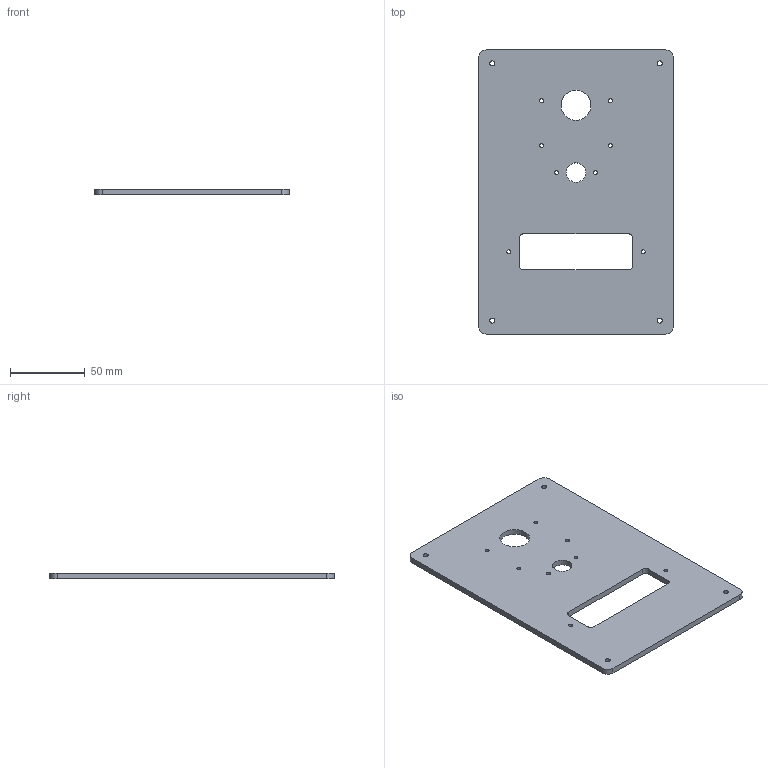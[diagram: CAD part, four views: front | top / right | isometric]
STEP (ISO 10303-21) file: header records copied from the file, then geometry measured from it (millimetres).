
FILE_DESCRIPTION(('Open CASCADE Model'),'2;1');
FILE_NAME('Open CASCADE Shape Model','2026-10-07T15:46:24',('Author'),( 'Open CASCADE'),'Open CASCADE STEP processor 7.9','Open CASCADE 7.9' ,'Unknown');
FILE_SCHEMA(('AUTOMOTIVE_DESIGN { 1 0 10303 214 1 1 1 1 }'));
Length unit declared in the file: millimetre
Products named in the file (1): Open CASCADE STEP translator 7.9 2
Bounding box: 130 x 190 x 4 mm (x, y, z)
Volume: 87564 mm3; surface area: 50310.4 mm2
Topology: 1 solids, 1 shells, 50 faces, 138 edges, 92 vertices
Faces by surface type: cylinder 30, plane 20
Full cylindrical faces by diameter (mm): 2.6 x8, 3.4 x4, 13 x1, 20 x1
Entity records: 3548 total; most frequent: CARTESIAN_POINT 801, DIRECTION 502, ORIENTED_EDGE 276, PCURVE 276, DEFINITIONAL_REPRESENTATION 276, LINE 254, VECTOR 254, EDGE_CURVE 138
